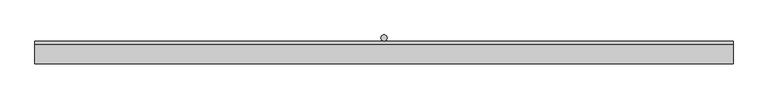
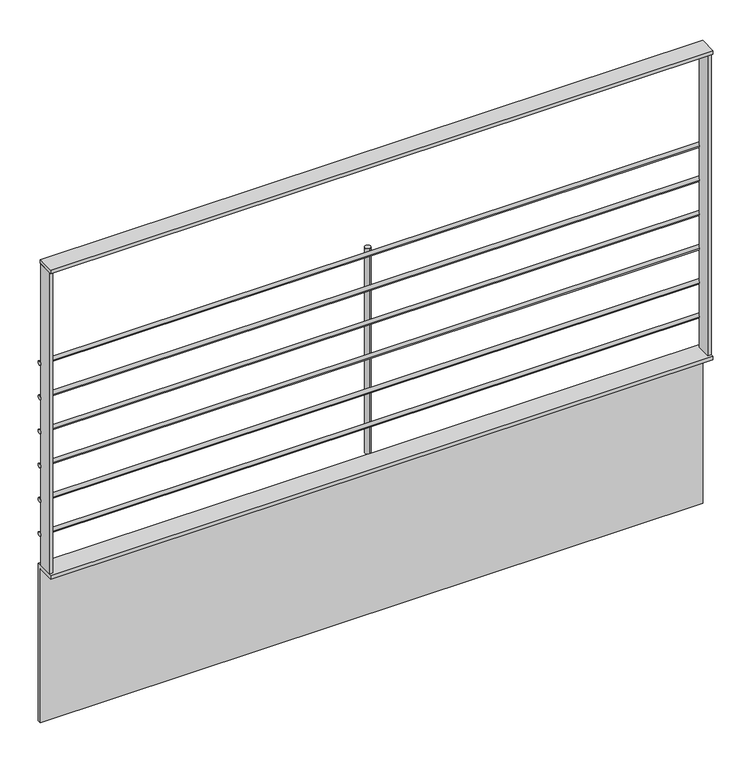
"""IFC4 building model written with IfcOpenShell, lengths in millimetres: railing geometry, Pletina y tubos pancha cubre forjado."""

from ifc_helpers import new_model, si_unit, point, frame, frame_2d, origin, place, context, project, spatial, polyline, circle_curve, trimmed, segment, composite_curve, outline, extrude, source, transform, mapped, element, save


def railing_fb63fa7a(model_context):
    return source(origin(), model_context, "Body", "SweptSolid", [
        extrude(outline(polyline([(-7042.6669037, 3100.0), (-7092.6669037, 3100.0), (-7092.6669037, 3110.0), (-7032.6669037, 3110.0), (-7032.6669037, 2650.0), (-7042.6669037, 2650.0), (-7042.6669037, 3100.0)])), frame((-0.8601801, 0.0, 0.0), z_axis=(1.0, 0.0, 0.0), x_axis=(0.0, 1.0, 0.0)), (0.0, 0.0, 1.0), 1834.4614359),
        extrude(outline(composite_curve([segment(trimmed(circle_curve(frame_2d((-7038.6669037, 3200.0)), 6.0), [point((-7044.6669037, 3200.0))], [point((-7032.6669037, 3200.0))], False, "CARTESIAN"), True, "CONTINUOUS"), segment(trimmed(circle_curve(frame_2d((-7038.6669037, 3200.0)), 6.0), [point((-7032.6669037, 3200.0))], [point((-7044.6669037, 3200.0))], False, "CARTESIAN"), True, "CONTINUOUS")], self_intersect=False)), frame((-0.8601801, 0.0, 0.0), z_axis=(1.0, 0.0, 0.0), x_axis=(0.0, 1.0, 0.0)), (0.0, 0.0, 1.0), 1834.4614359),
        extrude(outline(composite_curve([segment(trimmed(circle_curve(frame_2d((-7038.6669037, 3300.0)), 6.0), [point((-7044.6669037, 3300.0))], [point((-7032.6669037, 3300.0))], False, "CARTESIAN"), True, "CONTINUOUS"), segment(trimmed(circle_curve(frame_2d((-7038.6669037, 3300.0)), 6.0), [point((-7032.6669037, 3300.0))], [point((-7044.6669037, 3300.0))], False, "CARTESIAN"), True, "CONTINUOUS")], self_intersect=False)), frame((-0.8601801, 0.0, 0.0), z_axis=(1.0, 0.0, 0.0), x_axis=(0.0, 1.0, 0.0)), (0.0, 0.0, 1.0), 1834.4614359),
        extrude(outline(composite_curve([segment(trimmed(circle_curve(frame_2d((-7038.6669037, 3400.0)), 6.0), [point((-7044.6669037, 3400.0))], [point((-7032.6669037, 3400.0))], False, "CARTESIAN"), True, "CONTINUOUS"), segment(trimmed(circle_curve(frame_2d((-7038.6669037, 3400.0)), 6.0), [point((-7032.6669037, 3400.0))], [point((-7044.6669037, 3400.0))], False, "CARTESIAN"), True, "CONTINUOUS")], self_intersect=False)), frame((-0.8601801, 0.0, 0.0), z_axis=(1.0, 0.0, 0.0), x_axis=(0.0, 1.0, 0.0)), (0.0, 0.0, 1.0), 1834.4614359),
        extrude(outline(composite_curve([segment(trimmed(circle_curve(frame_2d((-7038.6669037, 3500.0)), 6.0), [point((-7044.6669037, 3500.0))], [point((-7032.6669037, 3500.0))], False, "CARTESIAN"), True, "CONTINUOUS"), segment(trimmed(circle_curve(frame_2d((-7038.6669037, 3500.0)), 6.0), [point((-7032.6669037, 3500.0))], [point((-7044.6669037, 3500.0))], False, "CARTESIAN"), True, "CONTINUOUS")], self_intersect=False)), frame((-0.8601801, 0.0, 0.0), z_axis=(1.0, 0.0, 0.0), x_axis=(0.0, 1.0, 0.0)), (0.0, 0.0, 1.0), 1834.4614359),
        extrude(outline(composite_curve([segment(trimmed(circle_curve(frame_2d((-7038.6669037, 3600.0)), 6.0), [point((-7044.6669037, 3600.0))], [point((-7032.6669037, 3600.0))], False, "CARTESIAN"), True, "CONTINUOUS"), segment(trimmed(circle_curve(frame_2d((-7038.6669037, 3600.0)), 6.0), [point((-7032.6669037, 3600.0))], [point((-7044.6669037, 3600.0))], False, "CARTESIAN"), True, "CONTINUOUS")], self_intersect=False)), frame((-0.8601801, 0.0, 0.0), z_axis=(1.0, 0.0, 0.0), x_axis=(0.0, 1.0, 0.0)), (0.0, 0.0, 1.0), 1834.4614359),
        extrude(outline(composite_curve([segment(trimmed(circle_curve(frame_2d((-7038.6669037, 3700.0)), 6.0), [point((-7044.6669037, 3700.0))], [point((-7032.6669037, 3700.0))], False, "CARTESIAN"), True, "CONTINUOUS"), segment(trimmed(circle_curve(frame_2d((-7038.6669037, 3700.0)), 6.0), [point((-7032.6669037, 3700.0))], [point((-7044.6669037, 3700.0))], False, "CARTESIAN"), True, "CONTINUOUS")], self_intersect=False)), frame((-0.8601801, 0.0, 0.0), z_axis=(1.0, 0.0, 0.0), x_axis=(0.0, 1.0, 0.0)), (0.0, 0.0, 1.0), 1834.4614359),
        extrude(outline(polyline([(1833.6012558, -7042.6669037), (1833.6012558, -7092.6669037), (-0.8601801, -7092.6669037), (-0.8601801, -7042.6669037), (1833.6012558, -7042.6669037)])), frame((0.0, 0.0, 3995.0), z_axis=(0.0, 0.0, 1.0), x_axis=(1.0, 0.0, 0.0)), (0.0, 0.0, 1.0), 10.0),
        extrude(outline(composite_curve([segment(trimmed(circle_curve(frame_2d((916.3705379, -7024.6669037)), 8.0), [point((916.3705379, -7032.6669037))], [point((916.3705379, -7016.6669037))], False, "CARTESIAN"), True, "CONTINUOUS"), segment(trimmed(circle_curve(frame_2d((916.3705379, -7024.6669037)), 8.0), [point((916.3705379, -7016.6669037))], [point((916.3705379, -7032.6669037))], False, "CARTESIAN"), True, "CONTINUOUS")], self_intersect=False)), frame((0.0, 0.0, 3110.0), z_axis=(0.0, 0.0, 1.0), x_axis=(1.0, 0.0, 0.0)), (0.0, 0.0, 1.0), 600.0),
        extrude(outline(polyline([(9.1398199, -7084.6669037), (-0.8601801, -7084.6669037), (-0.8601801, -7044.6669037), (9.1398199, -7044.6669037), (9.1398199, -7084.6669037)])), frame((0.0, 0.0, 3110.0), z_axis=(0.0, 0.0, 1.0), x_axis=(1.0, 0.0, 0.0)), (0.0, 0.0, 1.0), 885.0),
        extrude(outline(polyline([(1833.6012558, -7084.6669037), (1823.6012558, -7084.6669037), (1823.6012558, -7044.6669037), (1833.6012558, -7044.6669037), (1833.6012558, -7084.6669037)])), frame((0.0, 0.0, 3110.0), z_axis=(0.0, 0.0, 1.0), x_axis=(1.0, 0.0, 0.0)), (0.0, 0.0, 1.0), 885.0),
    ])


if __name__ == "__main__":
    model = new_model("IFC4")
    model_context = context("Model", 3, world=origin())
    ifc_project = project(units=[si_unit("LENGTHUNIT", "METRE", prefix="MILLI")], contexts=[model_context])
    site = spatial("IfcSite", under=ifc_project)
    building = spatial("IfcBuilding", under=site)
    placement = place(None, origin())
    railing_shape = railing_fb63fa7a(model_context)
    element("IfcRailing", 1, ObjectType="Pletina y tubos pancha cubre forjado", at=placement, inside=building, context=model_context, shape_type="MappedRepresentation", body=[
        mapped(railing_shape, transform((0.0, 0.0, 0.0), x_axis=(1.0, 0.0, 0.0), y_axis=(0.0, 1.0, 0.0), z_axis=(0.0, 0.0, 1.0))),
    ])
    save(model, "model.ifc")
